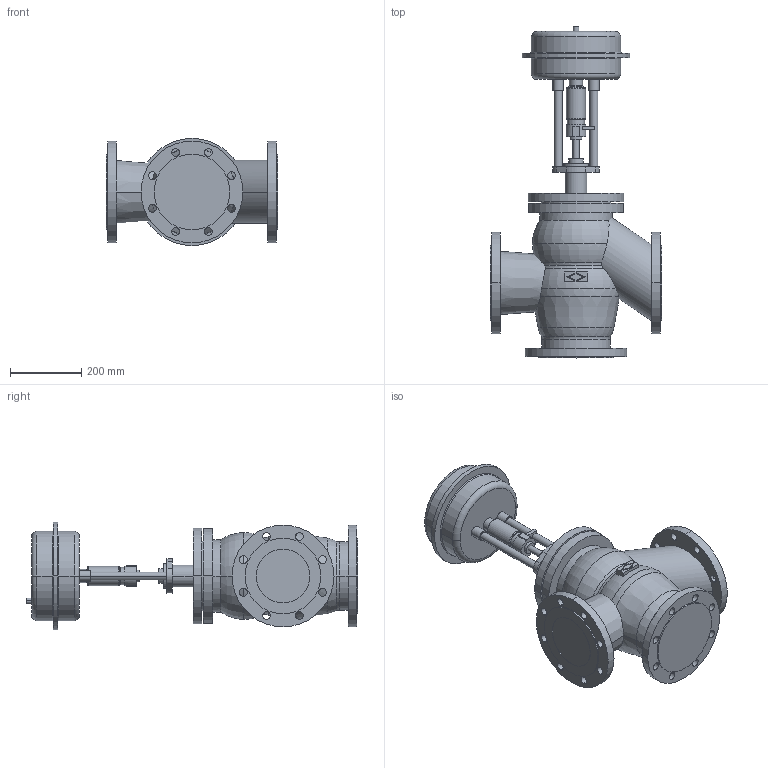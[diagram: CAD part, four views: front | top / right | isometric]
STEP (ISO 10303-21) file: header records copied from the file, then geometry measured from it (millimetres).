
FILE_DESCRIPTION(('OneSpaceDesigner STEP Export'),'2;1');
FILE_NAME('c000000659.stp','2007-01-26T12:30:07',(''),(''),'OneSpace Designer STEP processor for AP214 (Solid Model)','OneSpace Designer 14.00B 27-May-2006 (C) CoCreate Software GmbH','');
FILE_SCHEMA(('AUTOMOTIVE_DESIGN { 1 0 10303 214 1 1 1 1 }'));
Length unit declared in the file: millimetre
Products named in the file (2): 1; 2
Bounding box: 480 x 929.6 x 300 mm (x, y, z)
Volume: 35960506 mm3; surface area: 1269841.3 mm2
Topology: 2 solids, 2 shells, 231 faces, 563 edges, 368 vertices
Faces by surface type: cylinder 116, plane 75, torus 32, cone 8
Entity records: 6239 total; most frequent: CARTESIAN_POINT 1273, ORIENTED_EDGE 1126, DIRECTION 882, EDGE_CURVE 563, VERTEX_POINT 368, AXIS2_PLACEMENT_3D 333, EDGE_LOOP 311, FACE_OUTER_BOUND 231
